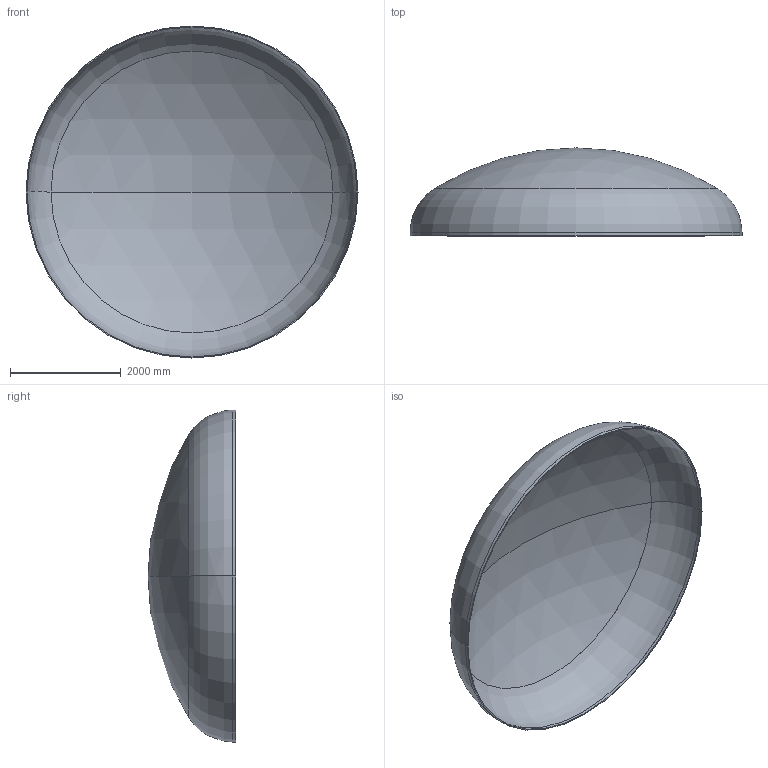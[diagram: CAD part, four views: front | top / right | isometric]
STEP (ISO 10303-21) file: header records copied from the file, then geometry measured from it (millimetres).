
FILE_DESCRIPTION (( 'STEP AP203' ), '1' );
FILE_NAME ('DIN 28013 Korbbogenform_-_Boden DIN 28013 - 6000 x 55 - I - s=18.step', '2016-07-04T10:35:58', ( '' ), ( '' ), 'SwSTEP 2.0', 'SolidWorks 2013', '' );
FILE_SCHEMA (( 'CONFIG_CONTROL_DESIGN' ));
Length unit declared in the file: millimetre
Products named in the file (1): DIN 28013 Korbbogenform_-_Boden DIN 28013 - 6000 x 55 - I - s=18
Bounding box: 6000 x 1589.04 x 6000 mm (x, y, z)
Volume: 720883613.6 mm3; surface area: 80437099.4 mm2
Topology: 1 solids, 1 shells, 13 faces, 24 edges, 14 vertices
Faces by surface type: torus 4, cylinder 4, sphere 4, plane 1
Entity records: 407 total; most frequent: DIRECTION 72, CARTESIAN_POINT 52, ORIENTED_EDGE 48, AXIS2_PLACEMENT_3D 34, EDGE_CURVE 24, CIRCLE 20, VERTEX_POINT 14, EDGE_LOOP 14
